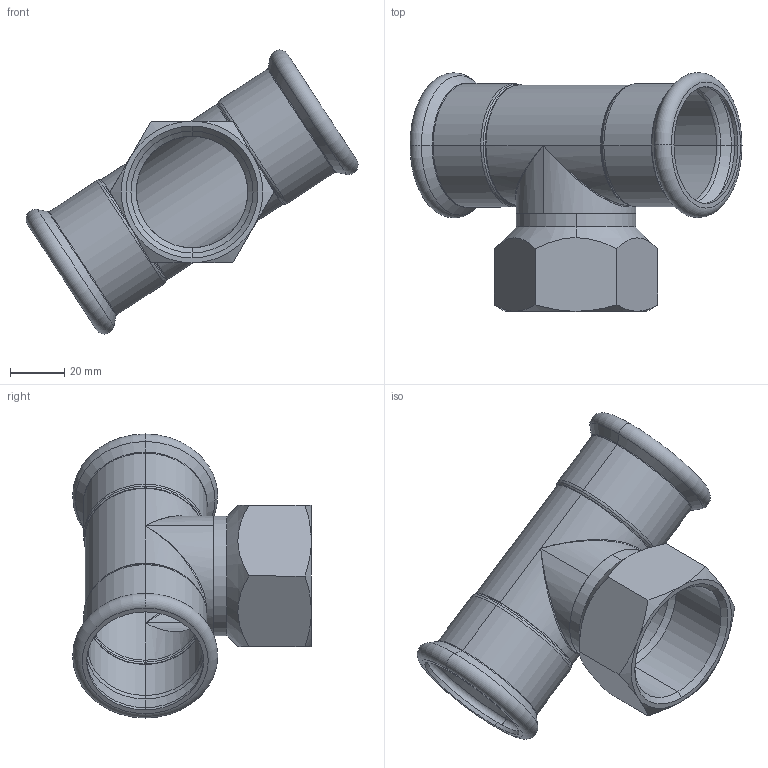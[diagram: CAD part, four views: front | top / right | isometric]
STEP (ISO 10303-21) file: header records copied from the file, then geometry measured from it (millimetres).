
FILE_DESCRIPTION (( 'STEP AP203' ), '1' );
FILE_NAME ('GDA5265.STEP', '2019-01-14T01:17:56', ( '' ), ( '' ), 'SwSTEP 2.0', 'SolidWorks 2015', '' );
FILE_SCHEMA (( 'CONFIG_CONTROL_DESIGN' ));
Length unit declared in the file: millimetre
Products named in the file (3): GDA5265; ITC-I-03-42×1?; T(R)-¢ñ-42¡Á42''
Assembly tree (2 placements, depth 2):
  GDA5265
    ITC-I-03-42×1?
    T(R)-¢ñ-42¡Á42''
Bounding box: 121.88 x 87.64 x 104.28 mm (x, y, z)
Volume: 48277.2 mm3; surface area: 46186.9 mm2
Topology: 2 solids, 2 shells, 104 faces, 219 edges, 114 vertices
Faces by surface type: torus 32, cone 28, cylinder 28, plane 13, bspline 3
Entity records: 3453 total; most frequent: CARTESIAN_POINT 952, DIRECTION 526, ORIENTED_EDGE 426, AXIS2_PLACEMENT_3D 234, EDGE_CURVE 213, CIRCLE 128, VERTEX_POINT 114, EDGE_LOOP 111
